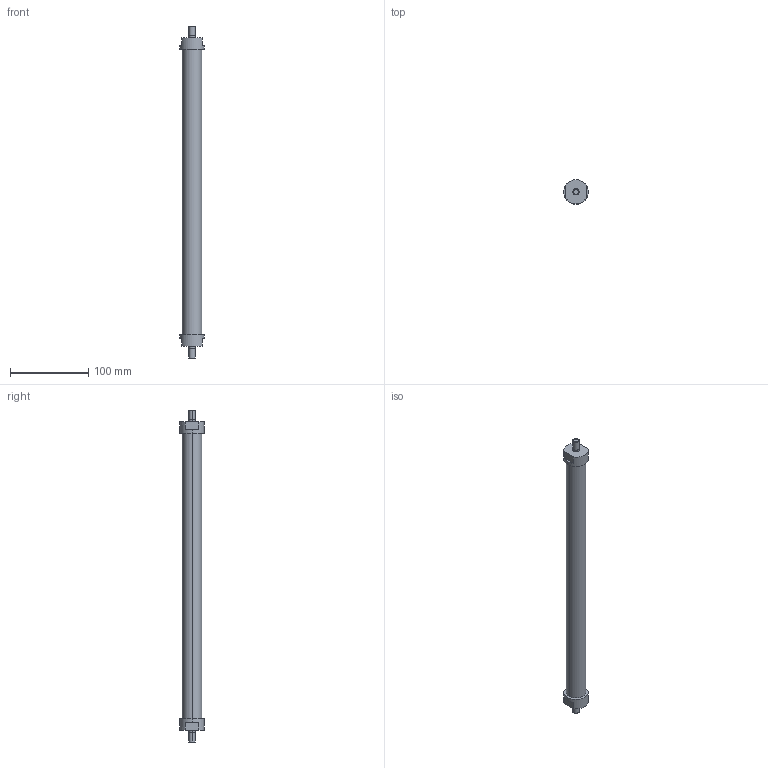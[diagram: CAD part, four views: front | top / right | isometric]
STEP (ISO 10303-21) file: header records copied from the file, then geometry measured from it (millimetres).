
FILE_DESCRIPTION(('STEP AP214'),'1');
FILE_NAME('ETT-R050N404.stp','2015-02-02T15:36:19',(' '),(' '),'Spatial InterOp 3D',' ',' ');
FILE_SCHEMA(('automotive_design'));
Length unit declared in the file: metre
Products named in the file (3): 1; 2; 3
Bounding box: 31 x 31 x 424 mm (x, y, z)
Volume: 201684.1 mm3; surface area: 34815.8 mm2
Topology: 1 solids, 7 shells, 30 faces, 81 edges, 63 vertices
Faces by surface type: plane 16, cylinder 14
Entity records: 1295 total; most frequent: DIRECTION 194, CARTESIAN_POINT 177, ORIENTED_EDGE 138, EDGE_CURVE 81, AXIS2_PLACEMENT_3D 80, VERTEX_POINT 63, CIRCLE 47, EDGE_LOOP 36
